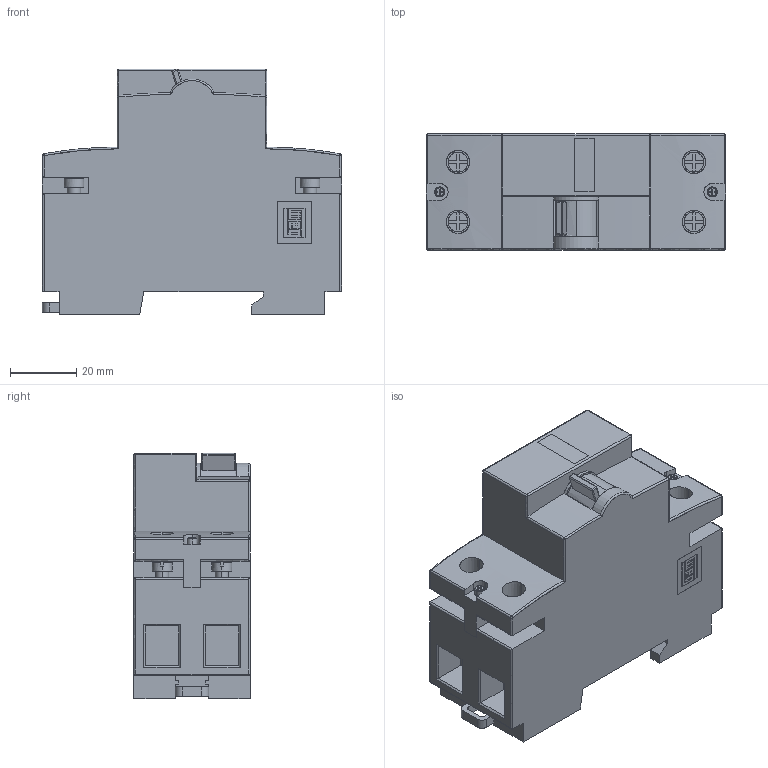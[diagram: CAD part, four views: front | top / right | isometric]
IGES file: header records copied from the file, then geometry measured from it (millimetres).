
Start section: SolidWorks IGES file using analytic representation for surfaces
Global section: file name: Q:\GROUPS\BR_SC_JGS_WA_TECNICO\ENG\Usuarios\Rodrigob\conversão\Linha Predial\Interruptores diferenciais-residuais RDW\Projetecnica\RDW_2\RDW_2.IGS; native system: SolidWorks 2009; preprocessor: SolidWorks 2009; author: rodrigob; date: 100128.125315; units: millimetre
Bounding box: 90 x 35 x 74 mm (x, y, z)
Surface area: 28998.4 mm2 (no closed solid volume)
Topology: 0 solids, 0 shells, 428 faces, 3567 edges, 3557 vertices
Faces by surface type: bspline 329, revolution 99
